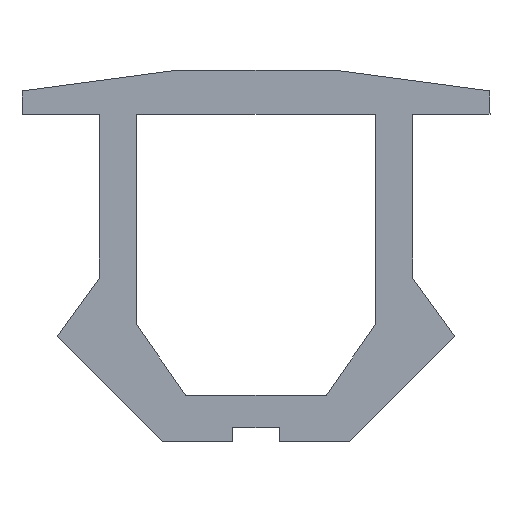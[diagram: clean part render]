
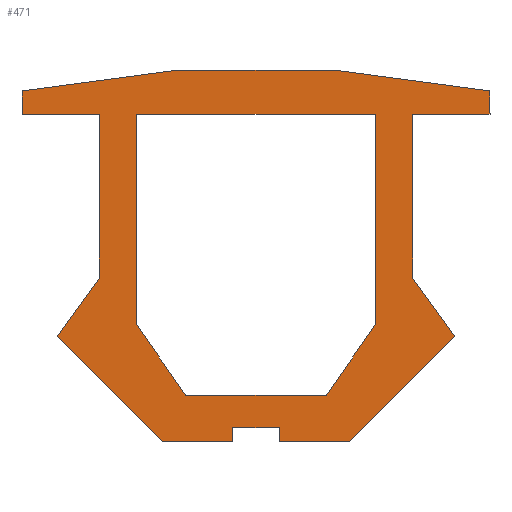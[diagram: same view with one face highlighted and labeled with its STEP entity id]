
A CAD part, front view. The second image highlights one B-rep face of the part: STEP entity #471.
In plain terms, the highlighted planar face has unit normal (0, -1, 0).
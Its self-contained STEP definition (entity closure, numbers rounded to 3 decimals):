
#22=CIRCLE('',#510,25.25);
#53=ORIENTED_EDGE('',*,*,#183,.F.);
#54=ORIENTED_EDGE('',*,*,#184,.F.);
#55=ORIENTED_EDGE('',*,*,#185,.F.);
#56=ORIENTED_EDGE('',*,*,#186,.F.);
#57=ORIENTED_EDGE('',*,*,#187,.F.);
#58=ORIENTED_EDGE('',*,*,#188,.F.);
#59=ORIENTED_EDGE('',*,*,#189,.T.);
#60=ORIENTED_EDGE('',*,*,#190,.T.);
#61=ORIENTED_EDGE('',*,*,#155,.T.);
#62=ORIENTED_EDGE('',*,*,#191,.T.);
#63=ORIENTED_EDGE('',*,*,#192,.T.);
#64=ORIENTED_EDGE('',*,*,#193,.T.);
#65=ORIENTED_EDGE('',*,*,#194,.T.);
#66=ORIENTED_EDGE('',*,*,#195,.T.);
#67=ORIENTED_EDGE('',*,*,#196,.T.);
#68=ORIENTED_EDGE('',*,*,#197,.T.);
#69=ORIENTED_EDGE('',*,*,#198,.T.);
#70=ORIENTED_EDGE('',*,*,#199,.T.);
#71=ORIENTED_EDGE('',*,*,#200,.T.);
#72=ORIENTED_EDGE('',*,*,#201,.T.);
#73=ORIENTED_EDGE('',*,*,#161,.T.);
#74=ORIENTED_EDGE('',*,*,#202,.T.);
#155=EDGE_CURVE('',#221,#222,#265,.T.);
#161=EDGE_CURVE('',#228,#227,#271,.T.);
#183=EDGE_CURVE('',#247,#248,#292,.T.);
#184=EDGE_CURVE('',#249,#247,#293,.T.);
#185=EDGE_CURVE('',#250,#249,#294,.T.);
#186=EDGE_CURVE('',#251,#250,#295,.T.);
#187=EDGE_CURVE('',#252,#251,#296,.T.);
#188=EDGE_CURVE('',#248,#252,#297,.T.);
#189=EDGE_CURVE('',#253,#254,#298,.T.);
#190=EDGE_CURVE('',#254,#221,#299,.T.);
#191=EDGE_CURVE('',#222,#255,#300,.T.);
#192=EDGE_CURVE('',#255,#256,#301,.T.);
#193=EDGE_CURVE('',#256,#257,#302,.T.);
#194=EDGE_CURVE('',#257,#258,#303,.T.);
#195=EDGE_CURVE('',#258,#259,#304,.T.);
#196=EDGE_CURVE('',#259,#260,#22,.T.);
#197=EDGE_CURVE('',#260,#261,#305,.T.);
#198=EDGE_CURVE('',#261,#262,#306,.T.);
#199=EDGE_CURVE('',#262,#263,#307,.T.);
#200=EDGE_CURVE('',#263,#264,#308,.T.);
#201=EDGE_CURVE('',#264,#228,#309,.T.);
#202=EDGE_CURVE('',#227,#253,#310,.T.);
#221=VERTEX_POINT('',#652);
#222=VERTEX_POINT('',#653);
#227=VERTEX_POINT('',#664);
#228=VERTEX_POINT('',#666);
#247=VERTEX_POINT('',#709);
#248=VERTEX_POINT('',#710);
#249=VERTEX_POINT('',#712);
#250=VERTEX_POINT('',#714);
#251=VERTEX_POINT('',#716);
#252=VERTEX_POINT('',#718);
#253=VERTEX_POINT('',#721);
#254=VERTEX_POINT('',#722);
#255=VERTEX_POINT('',#725);
#256=VERTEX_POINT('',#727);
#257=VERTEX_POINT('',#729);
#258=VERTEX_POINT('',#731);
#259=VERTEX_POINT('',#733);
#260=VERTEX_POINT('',#735);
#261=VERTEX_POINT('',#737);
#262=VERTEX_POINT('',#739);
#263=VERTEX_POINT('',#741);
#264=VERTEX_POINT('',#743);
#265=LINE('',#651,#329);
#271=LINE('',#665,#335);
#292=LINE('',#708,#356);
#293=LINE('',#711,#357);
#294=LINE('',#713,#358);
#295=LINE('',#715,#359);
#296=LINE('',#717,#360);
#297=LINE('',#719,#361);
#298=LINE('',#720,#362);
#299=LINE('',#723,#363);
#300=LINE('',#724,#364);
#301=LINE('',#726,#365);
#302=LINE('',#728,#366);
#303=LINE('',#730,#367);
#304=LINE('',#732,#368);
#305=LINE('',#736,#369);
#306=LINE('',#738,#370);
#307=LINE('',#740,#371);
#308=LINE('',#742,#372);
#309=LINE('',#744,#373);
#310=LINE('',#745,#374);
#329=VECTOR('',#535,1000.);
#335=VECTOR('',#543,1000.);
#356=VECTOR('',#570,1000.);
#357=VECTOR('',#571,1000.);
#358=VECTOR('',#572,1000.);
#359=VECTOR('',#573,1000.);
#360=VECTOR('',#574,1000.);
#361=VECTOR('',#575,1000.);
#362=VECTOR('',#576,1000.);
#363=VECTOR('',#577,1000.);
#364=VECTOR('',#578,1000.);
#365=VECTOR('',#579,1000.);
#366=VECTOR('',#580,1000.);
#367=VECTOR('',#581,1000.);
#368=VECTOR('',#582,1000.);
#369=VECTOR('',#585,1000.);
#370=VECTOR('',#586,1000.);
#371=VECTOR('',#587,1000.);
#372=VECTOR('',#588,1000.);
#373=VECTOR('',#589,1000.);
#374=VECTOR('',#590,1000.);
#397=EDGE_LOOP('',(#53,#54,#55,#56,#57,#58));
#398=EDGE_LOOP('',(#59,#60,#61,#62,#63,#64,#65,#66,#67,#68,#69,#70,#71,
#72,#73,#74));
#423=FACE_BOUND('',#397,.T.);
#424=FACE_BOUND('',#398,.T.);
#448=PLANE('',#509);
#471=ADVANCED_FACE('',(#423,#424),#448,.T.);
#509=AXIS2_PLACEMENT_3D('',#707,#568,#569);
#510=AXIS2_PLACEMENT_3D('',#734,#583,#584);
#535=DIRECTION('',(1.,0.,0.));
#543=DIRECTION('',(1.,0.,0.));
#568=DIRECTION('',(0.,-1.,0.));
#569=DIRECTION('',(0.,0.,-1.));
#570=DIRECTION('',(0.574,0.,-0.819));
#571=DIRECTION('',(0.,0.,-1.));
#572=DIRECTION('',(-1.,0.,0.));
#573=DIRECTION('',(0.,0.,1.));
#574=DIRECTION('',(0.574,0.,0.819));
#575=DIRECTION('',(1.,0.,0.));
#576=DIRECTION('',(1.,0.,0.));
#577=DIRECTION('',(0.,0.,-1.));
#578=DIRECTION('',(0.707,0.,0.707));
#579=DIRECTION('',(-0.584,0.,0.812));
#580=DIRECTION('',(0.,0.,1.));
#581=DIRECTION('',(1.,0.,0.));
#582=DIRECTION('',(0.,0.,1.));
#583=DIRECTION('',(0.,-1.,0.));
#584=DIRECTION('',(1.,0.,0.));
#585=DIRECTION('',(0.,0.,-1.));
#586=DIRECTION('',(1.,0.,0.));
#587=DIRECTION('',(0.,0.,-1.));
#588=DIRECTION('',(-0.584,0.,-0.812));
#589=DIRECTION('',(0.707,0.,-0.707));
#590=DIRECTION('',(0.,0.,1.));
#651=CARTESIAN_POINT('',(-2.,0.,-7.));
#652=CARTESIAN_POINT('',(0.5,0.,-7.));
#653=CARTESIAN_POINT('',(2.,0.,-7.));
#664=CARTESIAN_POINT('',(-0.5,0.,-7.));
#665=CARTESIAN_POINT('',(-2.,0.,-7.));
#666=CARTESIAN_POINT('',(-2.,0.,-7.));
#707=CARTESIAN_POINT('',(0.,0.,-24.25));
#708=CARTESIAN_POINT('',(-2.55,0.,-4.5));
#709=CARTESIAN_POINT('',(-2.55,0.,-4.5));
#710=CARTESIAN_POINT('',(-1.5,0.,-6.));
#711=CARTESIAN_POINT('',(-2.55,0.,-4.5));
#712=CARTESIAN_POINT('',(-2.55,0.,0.));
#713=CARTESIAN_POINT('',(-2.55,0.,0.));
#714=CARTESIAN_POINT('',(2.55,0.,0.));
#715=CARTESIAN_POINT('',(2.55,0.,0.));
#716=CARTESIAN_POINT('',(2.55,0.,-4.5));
#717=CARTESIAN_POINT('',(1.5,0.,-6.));
#718=CARTESIAN_POINT('',(1.5,0.,-6.));
#719=CARTESIAN_POINT('',(-1.5,0.,-6.));
#720=CARTESIAN_POINT('',(-0.5,0.,-6.7));
#721=CARTESIAN_POINT('',(-0.5,0.,-6.7));
#722=CARTESIAN_POINT('',(0.5,0.,-6.7));
#723=CARTESIAN_POINT('',(0.5,0.,-6.7));
#724=CARTESIAN_POINT('',(2.,0.,-7.));
#725=CARTESIAN_POINT('',(4.25,0.,-4.75));
#726=CARTESIAN_POINT('',(4.25,0.,-4.75));
#727=CARTESIAN_POINT('',(3.35,0.,-3.5));
#728=CARTESIAN_POINT('',(3.35,0.,-3.5));
#729=CARTESIAN_POINT('',(3.35,0.,0.));
#730=CARTESIAN_POINT('',(3.35,0.,0.));
#731=CARTESIAN_POINT('',(5.,0.,0.));
#732=CARTESIAN_POINT('',(5.,0.,0.));
#733=CARTESIAN_POINT('',(5.,0.,0.5));
#734=CARTESIAN_POINT('',(0.,0.,-24.25));
#735=CARTESIAN_POINT('',(-5.,0.,0.5));
#736=CARTESIAN_POINT('',(-5.,0.,0.5));
#737=CARTESIAN_POINT('',(-5.,0.,0.));
#738=CARTESIAN_POINT('',(-5.,0.,0.));
#739=CARTESIAN_POINT('',(-3.35,0.,0.));
#740=CARTESIAN_POINT('',(-3.35,0.,0.));
#741=CARTESIAN_POINT('',(-3.35,0.,-3.5));
#742=CARTESIAN_POINT('',(-3.35,0.,-3.5));
#743=CARTESIAN_POINT('',(-4.25,0.,-4.75));
#744=CARTESIAN_POINT('',(-4.25,0.,-4.75));
#745=CARTESIAN_POINT('',(-0.5,0.,-7.));
